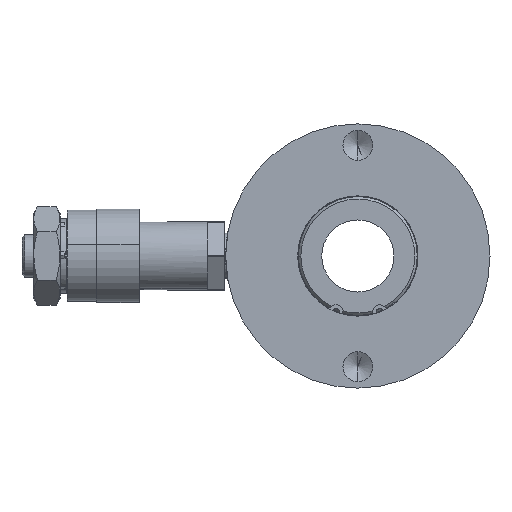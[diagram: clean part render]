
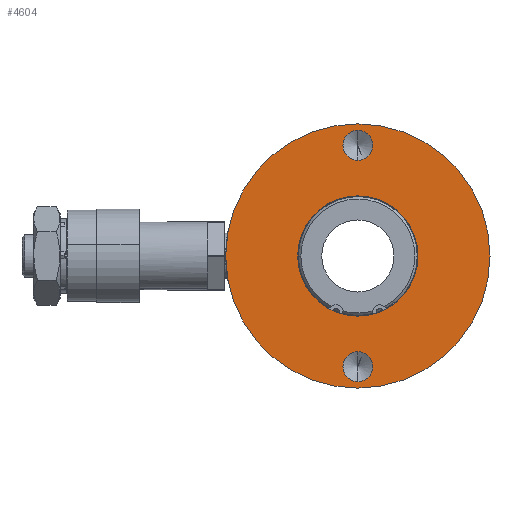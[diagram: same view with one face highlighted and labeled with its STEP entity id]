
A CAD part, front view. The second image highlights one B-rep face of the part: STEP entity #4604.
In plain terms, the highlighted planar face has unit normal (0, -1, 0).
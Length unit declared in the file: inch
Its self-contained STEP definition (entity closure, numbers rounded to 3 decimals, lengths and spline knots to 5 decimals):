
#281=CARTESIAN_POINT('',(0.,0.,0.));
#282=DIRECTION('',(0.,1.,0.));
#283=DIRECTION('',(0.,0.,1.));
#284=AXIS2_PLACEMENT_3D('',#281,#282,#283);
#286=CARTESIAN_POINT('',(0.,0.,0.));
#287=DIRECTION('',(0.,1.,0.));
#288=DIRECTION('',(0.,0.,-1.));
#289=AXIS2_PLACEMENT_3D('',#286,#287,#288);
#291=CARTESIAN_POINT('',(0.,0.,-1.625));
#292=DIRECTION('',(0.,-1.,0.));
#293=DIRECTION('',(0.,0.,-1.));
#294=AXIS2_PLACEMENT_3D('',#291,#292,#293);
#296=CARTESIAN_POINT('',(0.,0.,-1.625));
#297=DIRECTION('',(0.,-1.,0.));
#298=DIRECTION('',(0.,0.,1.));
#299=AXIS2_PLACEMENT_3D('',#296,#297,#298);
#301=CARTESIAN_POINT('',(0.,0.,0.));
#302=DIRECTION('',(0.,1.,0.));
#303=DIRECTION('',(0.,0.,-1.));
#304=AXIS2_PLACEMENT_3D('',#301,#302,#303);
#306=CARTESIAN_POINT('',(0.,0.,0.));
#307=DIRECTION('',(0.,1.,0.));
#308=DIRECTION('',(0.,0.,1.));
#309=AXIS2_PLACEMENT_3D('',#306,#307,#308);
#311=CARTESIAN_POINT('',(0.,0.,1.625));
#312=DIRECTION('',(0.,-1.,0.));
#313=DIRECTION('',(0.,0.,-1.));
#314=AXIS2_PLACEMENT_3D('',#311,#312,#313);
#316=CARTESIAN_POINT('',(0.,0.,1.625));
#317=DIRECTION('',(0.,-1.,0.));
#318=DIRECTION('',(0.,0.,1.));
#319=AXIS2_PLACEMENT_3D('',#316,#317,#318);
#3469=CARTESIAN_POINT('',(0.,0.,1.93996));
#3470=CARTESIAN_POINT('',(0.,0.,-1.93996));
#3471=VERTEX_POINT('',#3469);
#3472=VERTEX_POINT('',#3470);
#3477=CARTESIAN_POINT('',(0.,0.,-0.88287));
#3478=CARTESIAN_POINT('',(0.,0.,0.88287));
#3479=VERTEX_POINT('',#3477);
#3480=VERTEX_POINT('',#3478);
#3515=CARTESIAN_POINT('',(0.,0.,1.40551));
#3516=CARTESIAN_POINT('',(0.,0.,1.84449));
#3517=VERTEX_POINT('',#3515);
#3518=VERTEX_POINT('',#3516);
#3525=CARTESIAN_POINT('',(0.,0.,-1.84449));
#3526=CARTESIAN_POINT('',(0.,0.,-1.40551));
#3527=VERTEX_POINT('',#3525);
#3528=VERTEX_POINT('',#3526);
#4577=CARTESIAN_POINT('',(0.,0.,0.));
#4578=DIRECTION('',(0.,1.,0.));
#4579=DIRECTION('',(0.,0.,1.));
#4580=AXIS2_PLACEMENT_3D('',#4577,#4578,#4579);
#4581=PLANE('',#4580);
#4582=ORIENTED_EDGE('',*,*,#4551,.T.);
#4583=ORIENTED_EDGE('',*,*,#4565,.T.);
#4584=EDGE_LOOP('',(#4582,#4583));
#4585=FACE_OUTER_BOUND('',#4584,.F.);
#4587=ORIENTED_EDGE('',*,*,#4586,.T.);
#4589=ORIENTED_EDGE('',*,*,#4588,.T.);
#4590=EDGE_LOOP('',(#4587,#4589));
#4591=FACE_BOUND('',#4590,.F.);
#4593=ORIENTED_EDGE('',*,*,#4592,.F.);
#4595=ORIENTED_EDGE('',*,*,#4594,.F.);
#4596=EDGE_LOOP('',(#4593,#4595));
#4597=FACE_BOUND('',#4596,.F.);
#4599=ORIENTED_EDGE('',*,*,#4598,.T.);
#4601=ORIENTED_EDGE('',*,*,#4600,.T.);
#4602=EDGE_LOOP('',(#4599,#4601));
#4603=FACE_BOUND('',#4602,.F.);
#4604=ADVANCED_FACE('',(#4585,#4591,#4597,#4603),#4581,.F.);
#285=CIRCLE('',#284,1.93996);
#290=CIRCLE('',#289,1.93996);
#295=CIRCLE('',#294,0.21949);
#300=CIRCLE('',#299,0.21949);
#305=CIRCLE('',#304,0.88287);
#310=CIRCLE('',#309,0.88287);
#315=CIRCLE('',#314,0.21949);
#320=CIRCLE('',#319,0.21949);
#4551=EDGE_CURVE('',#3471,#3472,#285,.T.);
#4565=EDGE_CURVE('',#3472,#3471,#290,.T.);
#4586=EDGE_CURVE('',#3527,#3528,#295,.T.);
#4588=EDGE_CURVE('',#3528,#3527,#300,.T.);
#4592=EDGE_CURVE('',#3479,#3480,#305,.T.);
#4594=EDGE_CURVE('',#3480,#3479,#310,.T.);
#4598=EDGE_CURVE('',#3517,#3518,#315,.T.);
#4600=EDGE_CURVE('',#3518,#3517,#320,.T.);
